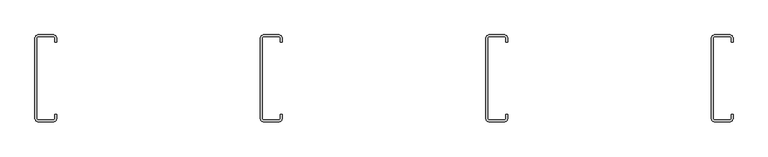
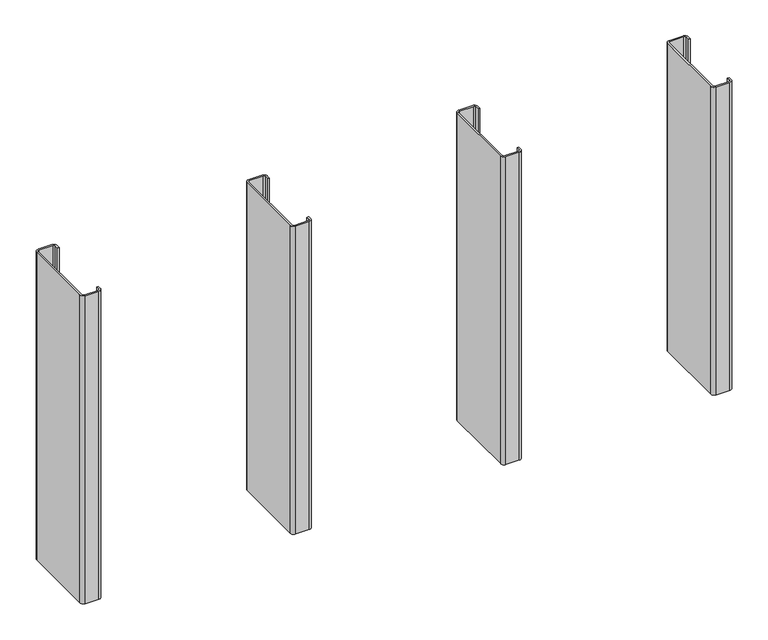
"""IFC4 building model written with IfcOpenShell, lengths in millimetres: proxy geometry, CRAi Generic Model Metal Stud Array : CRAi Generic Model Metal Stud Array."""

import ifcopenshell
import ifcopenshell.guid

model = None  # the IFC model being written
_history = None  # IfcOwnerHistory: only IFC2X3 demands one
_inside = {}  # id of a spatial element -> (the spatial element, [elements in it])
_under = {}  # id of a project, library or spatial element -> (it, [spatial elements below it])
_declared = {}  # id of a project -> (the project, [libraries it declares])
_typed = {}  # id of a type object -> (the type object, [elements of that type])
_made_of = {}  # id of a material, layer set ... -> (it, [elements and type objects made of it])


def new_model(schema):
    """Start an empty IFC model of exactly this schema.

    Asked for "IFC4X3", IfcOpenShell would pick the latest addendum, in which some entities
    have other attributes; the version numbers below select the first issue.
    IFC2X3 requires an IfcOwnerHistory on every rooted entity: one is made here for all.
    """
    global model, _history
    if schema == "IFC4X3":
        model = ifcopenshell.file(schema_version=(4, 3, 0, 0))
    else:
        model = ifcopenshell.file(schema=schema)
    _inside.clear()
    _under.clear()
    _declared.clear()
    _typed.clear()
    _made_of.clear()
    _history = None
    if model.schema == "IFC2X3":
        org = make("IfcOrganization", Name="unknown")
        user = make(
            "IfcPersonAndOrganization",
            ThePerson=make("IfcPerson", FamilyName="unknown"),
            TheOrganization=org,
        )
        app = make(
            "IfcApplication",
            ApplicationDeveloper=org,
            Version="unknown",
            ApplicationFullName="unknown",
            ApplicationIdentifier="unknown",
        )
        _history = make(
            "IfcOwnerHistory",
            OwningUser=user,
            OwningApplication=app,
            ChangeAction="ADDED",
            CreationDate=0,
        )
    return model


def make(cls, **values):
    """One entity of the class cls with the attributes given. An attribute that is None is left unset."""
    return model.create_entity(
        cls, **{name: value for name, value in values.items() if value is not None}
    )


def rooted(cls, **values):
    """An entity with a GlobalId (a new one), such as an element, a storey or a relation."""
    return make(cls, GlobalId=ifcopenshell.guid.new(), OwnerHistory=_history, **values)


def si_unit(unit_type, name, prefix=None):
    """IfcSIUnit, for example si_unit("LENGTHUNIT", "METRE", prefix="MILLI")."""
    return make("IfcSIUnit", UnitType=unit_type, Prefix=prefix, Name=name)


def assignment(units):
    """IfcUnitAssignment: the units of a project."""
    return None if units is None else make("IfcUnitAssignment", Units=units)


def point(xyz):
    """IfcCartesianPoint."""
    return None if xyz is None else make("IfcCartesianPoint", Coordinates=xyz)


def direction(xyz):
    """IfcDirection."""
    return None if xyz is None else make("IfcDirection", DirectionRatios=xyz)


def frame(location, z_axis=None, x_axis=None):
    """IfcAxis2Placement3D, a coordinate frame: its origin and axes. An axis left out is left unset."""
    return make(
        "IfcAxis2Placement3D",
        Location=point(location),
        Axis=direction(z_axis),
        RefDirection=direction(x_axis),
    )


def frame_2d(location, x_axis=None):
    """IfcAxis2Placement2D, a coordinate frame in the plane: its origin and x axis."""
    return make(
        "IfcAxis2Placement2D", Location=point(location), RefDirection=direction(x_axis)
    )


def origin():
    """The frame at (0, 0, 0) with its axes left unset."""
    return frame((0.0, 0.0, 0.0))


def origin_with_axes():
    """The frame at (0, 0, 0) with the z axis (0, 0, 1) and the x axis (1, 0, 0) written out."""
    return frame((0.0, 0.0, 0.0), z_axis=(0.0, 0.0, 1.0), x_axis=(1.0, 0.0, 0.0))


def place(relative_to, where):
    """IfcLocalPlacement: puts the frame where relative to a parent placement (None: the world)."""
    return make(
        "IfcLocalPlacement", PlacementRelTo=relative_to, RelativePlacement=where
    )


def context(
    kind, dimensions, precision=None, world=None, true_north=None, identifier=None
):
    """IfcGeometricRepresentationContext, for example the 3D "Model" context."""
    return make(
        "IfcGeometricRepresentationContext",
        ContextIdentifier=identifier,
        ContextType=kind,
        CoordinateSpaceDimension=dimensions,
        Precision=precision,
        WorldCoordinateSystem=world,
        TrueNorth=true_north,
    )


def project(units=None, contexts=None):
    """IfcProject with its units and contexts."""
    return rooted(
        "IfcProject",
        Name="project",
        RepresentationContexts=contexts,
        UnitsInContext=assignment(units),
    )


def spatial(cls, under=None, at=None, **own):
    """A site, building, storey or space (cls), placed at a placement, below another one or the project."""
    s = rooted(cls, ObjectPlacement=at, **own)
    if under is not None:
        _under.setdefault(under.id(), (under, []))[1].append(s)
    return s


def polyline(points):
    """IfcPolyline through the points."""
    return make("IfcPolyline", Points=[point(p) for p in points])


def circle_curve(where, radius):
    """IfcCircle in the frame where."""
    return make("IfcCircle", Position=where, Radius=radius)


def trimmed(basis, trim1, trim2, sense, master):
    """IfcTrimmedCurve: the piece of a basis curve between two trims."""
    return make(
        "IfcTrimmedCurve",
        BasisCurve=basis,
        Trim1=trim1,
        Trim2=trim2,
        SenseAgreement=sense,
        MasterRepresentation=master,
    )


def segment(curve, same_sense, transition):
    """IfcCompositeCurveSegment."""
    return make(
        "IfcCompositeCurveSegment",
        Transition=transition,
        SameSense=same_sense,
        ParentCurve=curve,
    )


def composite_curve(segments, self_intersect=None):
    """IfcCompositeCurve: segments joined end to end."""
    return make("IfcCompositeCurve", Segments=segments, SelfIntersect=self_intersect)


def outline(outer, holes=None, kind="AREA"):
    """IfcArbitraryClosedProfileDef: a profile drawn as a closed curve; with holes, ...WithVoids."""
    if holes is None:
        return make("IfcArbitraryClosedProfileDef", ProfileType=kind, OuterCurve=outer)
    return make(
        "IfcArbitraryProfileDefWithVoids",
        ProfileType=kind,
        OuterCurve=outer,
        InnerCurves=holes,
    )


def extrude(swept, where, along, depth):
    """IfcExtrudedAreaSolid: the profile swept, set in the frame where, extruded along a direction by depth."""
    return make(
        "IfcExtrudedAreaSolid",
        SweptArea=swept,
        Position=where,
        ExtrudedDirection=direction(along),
        Depth=depth,
    )


def shape(context_of_items, identifier, shape_type, items):
    """IfcShapeRepresentation: the items that make up one representation, for example the "Body"."""
    return make(
        "IfcShapeRepresentation",
        ContextOfItems=context_of_items,
        RepresentationIdentifier=identifier,
        RepresentationType=shape_type,
        Items=items,
    )


def source(mapping_origin, context_of_items, identifier, shape_type, items):
    """IfcRepresentationMap: a shape defined once, which mapped items show again and again."""
    return make(
        "IfcRepresentationMap",
        MappingOrigin=mapping_origin,
        MappedRepresentation=shape(context_of_items, identifier, shape_type, items),
    )


def transform(
    local_origin,
    x_axis=None,
    y_axis=None,
    z_axis=None,
    scale=None,
    scale2=None,
    scale3=None,
    uniform=True,
):
    """IfcCartesianTransformationOperator3D, or its non-uniform kind. x_axis, y_axis, z_axis: its Axis1, 2, 3."""
    if uniform:
        return make(
            "IfcCartesianTransformationOperator3D",
            Axis1=direction(x_axis),
            Axis2=direction(y_axis),
            LocalOrigin=point(local_origin),
            Scale=scale,
            Axis3=direction(z_axis),
        )
    return make(
        "IfcCartesianTransformationOperator3DnonUniform",
        Axis1=direction(x_axis),
        Axis2=direction(y_axis),
        LocalOrigin=point(local_origin),
        Scale=scale,
        Axis3=direction(z_axis),
        Scale2=scale2,
        Scale3=scale3,
    )


def mapped(mapping_source, mapping_target):
    """IfcMappedItem: shows the shape of a source again, moved by a transform."""
    return make(
        "IfcMappedItem", MappingSource=mapping_source, MappingTarget=mapping_target
    )


def made_of(thing, what):
    """Note that an element or type object is made of a material, layer set ...; save() writes the relation."""
    if what is not None:
        _made_of.setdefault(what.id(), (what, []))[1].append(thing)
    return thing


def element(
    cls,
    number,
    at=None,
    inside=None,
    cuts=None,
    type_object=None,
    material=None,
    context=None,
    identifier="Body",
    shape_type=None,
    held_by="IfcProductDefinitionShape",
    body=None,
    shapes=None,
    **own,
):
    """One element of the class cls, such as IfcWall. Its Tag is "e" and its number.

    at: its placement. inside: the storey or other place that contains it. cuts: it is an
    opening in that element (IfcRelVoidsElement). A single representation is given by context,
    identifier, shape_type and body (its items); several are given by shapes. held_by: the class
    of the entity that holds the representations. save() writes the other relations.
    """
    e = rooted(cls, Tag="e%d" % number, ObjectPlacement=at, **own)
    if body is not None:
        shapes = [shape(context, identifier, shape_type, body)]
    if shapes is not None:
        e.Representation = make(held_by, Representations=shapes)
    if inside is not None:
        _inside.setdefault(inside.id(), (inside, []))[1].append(e)
    if cuts is not None:
        rooted(
            "IfcRelVoidsElement", RelatingBuildingElement=cuts, RelatedOpeningElement=e
        )
    if type_object is not None:
        _typed.setdefault(type_object.id(), (type_object, []))[1].append(e)
    return made_of(e, material)


def aggregate(whole, parts):
    """IfcRelAggregates: a whole, such as a stair, and the parts it consists of."""
    return rooted("IfcRelAggregates", RelatingObject=whole, RelatedObjects=parts)


def save(model, path):
    """Write the relations noted so far, then the file.

    IfcRelAggregates (storeys below a building ...), IfcRelContainedInSpatialStructure (elements
    in a storey), IfcRelDefinesByType, IfcRelAssociatesMaterial and IfcRelDeclares: one each for
    every whole, place, type object, material and project.
    """
    for whole, parts in _under.values():
        aggregate(whole, parts)
    for where, things in _inside.values():
        rooted(
            "IfcRelContainedInSpatialStructure",
            RelatedElements=things,
            RelatingStructure=where,
        )
    for kind, things in _typed.values():
        rooted("IfcRelDefinesByType", RelatedObjects=things, RelatingType=kind)
    for what, things in _made_of.values():
        rooted("IfcRelAssociatesMaterial", RelatedObjects=things, RelatingMaterial=what)
    for by, libraries in _declared.values():
        rooted("IfcRelDeclares", RelatingContext=by, RelatedDefinitions=libraries)
    model.write(path)


def generic_models_cbf5ee67(model_context):
    return source(origin(), model_context, "Body", "SweptSolid", [
        extrude(outline(composite_curve([segment(polyline([(609.6, 63.5), (606.425, 63.5), (606.425, 70.2679713)]), True, "CONTINUOUS"), segment(trimmed(circle_curve(frame_2d((603.25, 69.85)), 3.2023936), [point((606.425, 70.2679713))], [point((603.6679713, 73.025))], True, "CARTESIAN"), True, "CONTINUOUS"), segment(polyline([(603.6679713, 73.025), (577.4320287, 73.025)]), True, "CONTINUOUS"), segment(trimmed(circle_curve(frame_2d((577.85, 69.85)), 3.2023936), [point((577.4320287, 73.025))], [point((574.675, 70.2679713))], True, "CARTESIAN"), True, "CONTINUOUS"), segment(polyline([(574.675, 70.2679713), (574.675, -70.2679713)]), True, "CONTINUOUS"), segment(trimmed(circle_curve(frame_2d((577.85, -69.85)), 3.2023936), [point((574.675, -70.2679713))], [point((577.4320287, -73.025))], True, "CARTESIAN"), True, "CONTINUOUS"), segment(polyline([(577.4320287, -73.025), (603.6679713, -73.025)]), True, "CONTINUOUS"), segment(trimmed(circle_curve(frame_2d((603.25, -69.85)), 3.2023936), [point((603.6679713, -73.025))], [point((606.425, -70.2679713))], True, "CARTESIAN"), True, "CONTINUOUS"), segment(polyline([(606.425, -70.2679713), (606.425, -63.5), (609.6, -63.5), (609.6, -69.85)]), True, "CONTINUOUS"), segment(trimmed(circle_curve(frame_2d((603.25, -69.85)), 6.35), [point((609.6, -69.85))], [point((603.25, -76.2))], False, "CARTESIAN"), True, "CONTINUOUS"), segment(polyline([(603.25, -76.2), (577.85, -76.2)]), True, "CONTINUOUS"), segment(trimmed(circle_curve(frame_2d((577.85, -69.85)), 6.35), [point((577.85, -76.2))], [point((571.5, -69.85))], False, "CARTESIAN"), True, "CONTINUOUS"), segment(polyline([(571.5, -69.85), (571.5, 69.85)]), True, "CONTINUOUS"), segment(trimmed(circle_curve(frame_2d((577.85, 69.85)), 6.35), [point((571.5, 69.85))], [point((577.85, 76.2))], False, "CARTESIAN"), True, "CONTINUOUS"), segment(polyline([(577.85, 76.2), (603.25, 76.2)]), True, "CONTINUOUS"), segment(trimmed(circle_curve(frame_2d((603.25, 69.85)), 6.35), [point((603.25, 76.2))], [point((609.6, 69.85))], False, "CARTESIAN"), True, "CONTINUOUS"), segment(polyline([(609.6, 69.85), (609.6, 63.5)]), True, "CONTINUOUS")], self_intersect=False)), origin_with_axes(), (0.0, 0.0, 1.0), 609.6),
        extrude(outline(composite_curve([segment(polyline([(215.9, 63.5), (212.725, 63.5), (212.725, 70.2679713)]), True, "CONTINUOUS"), segment(trimmed(circle_curve(frame_2d((209.55, 69.85)), 3.2023936), [point((212.725, 70.2679713))], [point((209.9679713, 73.025))], True, "CARTESIAN"), True, "CONTINUOUS"), segment(polyline([(209.9679713, 73.025), (183.7320287, 73.025)]), True, "CONTINUOUS"), segment(trimmed(circle_curve(frame_2d((184.15, 69.85)), 3.2023936), [point((183.7320287, 73.025))], [point((180.975, 70.2679713))], True, "CARTESIAN"), True, "CONTINUOUS"), segment(polyline([(180.975, 70.2679713), (180.975, -70.2679713)]), True, "CONTINUOUS"), segment(trimmed(circle_curve(frame_2d((184.15, -69.85)), 3.2023936), [point((180.975, -70.2679713))], [point((183.7320287, -73.025))], True, "CARTESIAN"), True, "CONTINUOUS"), segment(polyline([(183.7320287, -73.025), (209.9679713, -73.025)]), True, "CONTINUOUS"), segment(trimmed(circle_curve(frame_2d((209.55, -69.85)), 3.2023936), [point((209.9679713, -73.025))], [point((212.725, -70.2679713))], True, "CARTESIAN"), True, "CONTINUOUS"), segment(polyline([(212.725, -70.2679713), (212.725, -63.5), (215.9, -63.5), (215.9, -69.85)]), True, "CONTINUOUS"), segment(trimmed(circle_curve(frame_2d((209.55, -69.85)), 6.35), [point((215.9, -69.85))], [point((209.55, -76.2))], False, "CARTESIAN"), True, "CONTINUOUS"), segment(polyline([(209.55, -76.2), (184.15, -76.2)]), True, "CONTINUOUS"), segment(trimmed(circle_curve(frame_2d((184.15, -69.85)), 6.35), [point((184.15, -76.2))], [point((177.8, -69.85))], False, "CARTESIAN"), True, "CONTINUOUS"), segment(polyline([(177.8, -69.85), (177.8, 69.85)]), True, "CONTINUOUS"), segment(trimmed(circle_curve(frame_2d((184.15, 69.85)), 6.35), [point((177.8, 69.85))], [point((184.15, 76.2))], False, "CARTESIAN"), True, "CONTINUOUS"), segment(polyline([(184.15, 76.2), (209.55, 76.2)]), True, "CONTINUOUS"), segment(trimmed(circle_curve(frame_2d((209.55, 69.85)), 6.35), [point((209.55, 76.2))], [point((215.9, 69.85))], False, "CARTESIAN"), True, "CONTINUOUS"), segment(polyline([(215.9, 69.85), (215.9, 63.5)]), True, "CONTINUOUS")], self_intersect=False)), origin_with_axes(), (0.0, 0.0, 1.0), 609.6),
        extrude(outline(composite_curve([segment(polyline([(-177.8, 63.5), (-180.975, 63.5), (-180.975, 70.2679713)]), True, "CONTINUOUS"), segment(trimmed(circle_curve(frame_2d((-184.15, 69.85)), 3.2023936), [point((-180.975, 70.2679713))], [point((-183.7320287, 73.025))], True, "CARTESIAN"), True, "CONTINUOUS"), segment(polyline([(-183.7320287, 73.025), (-209.9679713, 73.025)]), True, "CONTINUOUS"), segment(trimmed(circle_curve(frame_2d((-209.55, 69.85)), 3.2023936), [point((-209.9679713, 73.025))], [point((-212.725, 70.2679713))], True, "CARTESIAN"), True, "CONTINUOUS"), segment(polyline([(-212.725, 70.2679713), (-212.725, -70.2679713)]), True, "CONTINUOUS"), segment(trimmed(circle_curve(frame_2d((-209.55, -69.85)), 3.2023936), [point((-212.725, -70.2679713))], [point((-209.9679713, -73.025))], True, "CARTESIAN"), True, "CONTINUOUS"), segment(polyline([(-209.9679713, -73.025), (-183.7320287, -73.025)]), True, "CONTINUOUS"), segment(trimmed(circle_curve(frame_2d((-184.15, -69.85)), 3.2023936), [point((-183.7320287, -73.025))], [point((-180.975, -70.2679713))], True, "CARTESIAN"), True, "CONTINUOUS"), segment(polyline([(-180.975, -70.2679713), (-180.975, -63.5), (-177.8, -63.5), (-177.8, -69.85)]), True, "CONTINUOUS"), segment(trimmed(circle_curve(frame_2d((-184.15, -69.85)), 6.35), [point((-177.8, -69.85))], [point((-184.15, -76.2))], False, "CARTESIAN"), True, "CONTINUOUS"), segment(polyline([(-184.15, -76.2), (-209.55, -76.2)]), True, "CONTINUOUS"), segment(trimmed(circle_curve(frame_2d((-209.55, -69.85)), 6.35), [point((-209.55, -76.2))], [point((-215.9, -69.85))], False, "CARTESIAN"), True, "CONTINUOUS"), segment(polyline([(-215.9, -69.85), (-215.9, 69.85)]), True, "CONTINUOUS"), segment(trimmed(circle_curve(frame_2d((-209.55, 69.85)), 6.35), [point((-215.9, 69.85))], [point((-209.55, 76.2))], False, "CARTESIAN"), True, "CONTINUOUS"), segment(polyline([(-209.55, 76.2), (-184.15, 76.2)]), True, "CONTINUOUS"), segment(trimmed(circle_curve(frame_2d((-184.15, 69.85)), 6.35), [point((-184.15, 76.2))], [point((-177.8, 69.85))], False, "CARTESIAN"), True, "CONTINUOUS"), segment(polyline([(-177.8, 69.85), (-177.8, 63.5)]), True, "CONTINUOUS")], self_intersect=False)), origin_with_axes(), (0.0, 0.0, 1.0), 609.6),
        extrude(outline(composite_curve([segment(polyline([(-571.5, 63.5), (-574.675, 63.5), (-574.675, 70.2679713)]), True, "CONTINUOUS"), segment(trimmed(circle_curve(frame_2d((-577.85, 69.85)), 3.2023936), [point((-574.675, 70.2679713))], [point((-577.4320287, 73.025))], True, "CARTESIAN"), True, "CONTINUOUS"), segment(polyline([(-577.4320287, 73.025), (-603.6679713, 73.025)]), True, "CONTINUOUS"), segment(trimmed(circle_curve(frame_2d((-603.25, 69.85)), 3.2023936), [point((-603.6679713, 73.025))], [point((-606.425, 70.2679713))], True, "CARTESIAN"), True, "CONTINUOUS"), segment(polyline([(-606.425, 70.2679713), (-606.425, -70.2679713)]), True, "CONTINUOUS"), segment(trimmed(circle_curve(frame_2d((-603.25, -69.85)), 3.2023936), [point((-606.425, -70.2679713))], [point((-603.6679713, -73.025))], True, "CARTESIAN"), True, "CONTINUOUS"), segment(polyline([(-603.6679713, -73.025), (-577.4320287, -73.025)]), True, "CONTINUOUS"), segment(trimmed(circle_curve(frame_2d((-577.85, -69.85)), 3.2023936), [point((-577.4320287, -73.025))], [point((-574.675, -70.2679713))], True, "CARTESIAN"), True, "CONTINUOUS"), segment(polyline([(-574.675, -70.2679713), (-574.675, -63.5), (-571.5, -63.5), (-571.5, -69.85)]), True, "CONTINUOUS"), segment(trimmed(circle_curve(frame_2d((-577.85, -69.85)), 6.35), [point((-571.5, -69.85))], [point((-577.85, -76.2))], False, "CARTESIAN"), True, "CONTINUOUS"), segment(polyline([(-577.85, -76.2), (-603.25, -76.2)]), True, "CONTINUOUS"), segment(trimmed(circle_curve(frame_2d((-603.25, -69.85)), 6.35), [point((-603.25, -76.2))], [point((-609.6, -69.85))], False, "CARTESIAN"), True, "CONTINUOUS"), segment(polyline([(-609.6, -69.85), (-609.6, 69.85)]), True, "CONTINUOUS"), segment(trimmed(circle_curve(frame_2d((-603.25, 69.85)), 6.35), [point((-609.6, 69.85))], [point((-603.25, 76.2))], False, "CARTESIAN"), True, "CONTINUOUS"), segment(polyline([(-603.25, 76.2), (-577.85, 76.2)]), True, "CONTINUOUS"), segment(trimmed(circle_curve(frame_2d((-577.85, 69.85)), 6.35), [point((-577.85, 76.2))], [point((-571.5, 69.85))], False, "CARTESIAN"), True, "CONTINUOUS"), segment(polyline([(-571.5, 69.85), (-571.5, 63.5)]), True, "CONTINUOUS")], self_intersect=False)), origin_with_axes(), (0.0, 0.0, 1.0), 609.6),
    ])


if __name__ == "__main__":
    model = new_model("IFC4")
    model_context = context("Model", 3, world=origin())
    ifc_project = project(units=[si_unit("LENGTHUNIT", "METRE", prefix="MILLI")], contexts=[model_context])
    site = spatial("IfcSite", under=ifc_project)
    building = spatial("IfcBuilding", under=site)
    placement = place(None, origin())
    generic_models_shape = generic_models_cbf5ee67(model_context)
    element("IfcBuildingElementProxy", 1, Name="CRAi Generic Model Metal Stud Array : CRAi Generic Model Metal Stud Array", ObjectType="CRAi Generic Model Metal Stud Array : CRAi Generic Model Metal Stud Array", at=placement, inside=building, context=model_context, shape_type="MappedRepresentation", body=[
        mapped(generic_models_shape, transform((0.0, 0.0, 0.0), x_axis=(1.0, 0.0, 0.0), y_axis=(0.0, 1.0, 0.0), z_axis=(0.0, 0.0, 1.0))),
    ])
    save(model, "model.ifc")
